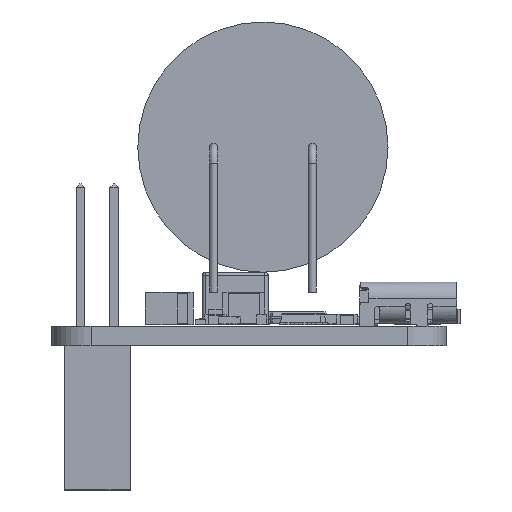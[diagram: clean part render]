
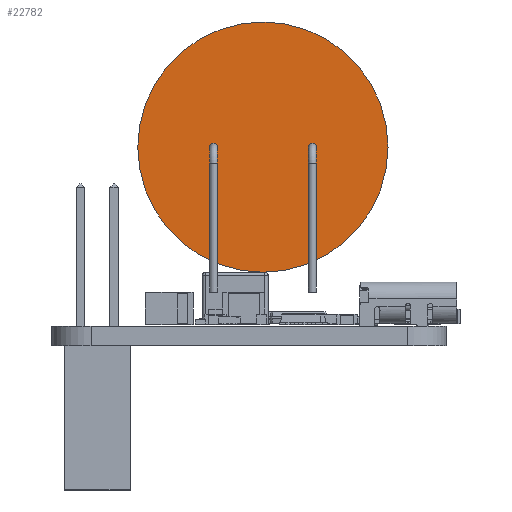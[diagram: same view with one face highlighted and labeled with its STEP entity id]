
A CAD part, left-side view. The second image highlights one B-rep face of the part: STEP entity #22782.
In plain terms, the highlighted planar face has unit normal (-1, 0, 0) as drawn and (0, 0, -1) by its records, which use the part's own axes.
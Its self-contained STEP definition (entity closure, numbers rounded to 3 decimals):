
#22754 = VERTEX_POINT('',#22755);
#22755 = CARTESIAN_POINT('',(9.5,0.,0.));
#22761 = EDGE_CURVE('',#22754,#22754,#22762,.T.);
#22762 = CIRCLE('',#22763,9.5);
#22763 = AXIS2_PLACEMENT_3D('',#22764,#22765,#22766);
#22764 = CARTESIAN_POINT('',(0.,0.,0.));
#22765 = DIRECTION('',(0.,0.,1.));
#22766 = DIRECTION('',(1.,0.,-0.));
#22782 = ADVANCED_FACE('',(#22783),#22786,.F.);
#22783 = FACE_BOUND('',#22784,.T.);
#22784 = EDGE_LOOP('',(#22785));
#22785 = ORIENTED_EDGE('',*,*,#22761,.F.);
#22786 = PLANE('',#22787);
#22787 = AXIS2_PLACEMENT_3D('',#22788,#22789,#22790);
#22788 = CARTESIAN_POINT('',(0.,0.,0.));
#22789 = DIRECTION('',(0.,0.,1.));
#22790 = DIRECTION('',(1.,0.,-0.));
